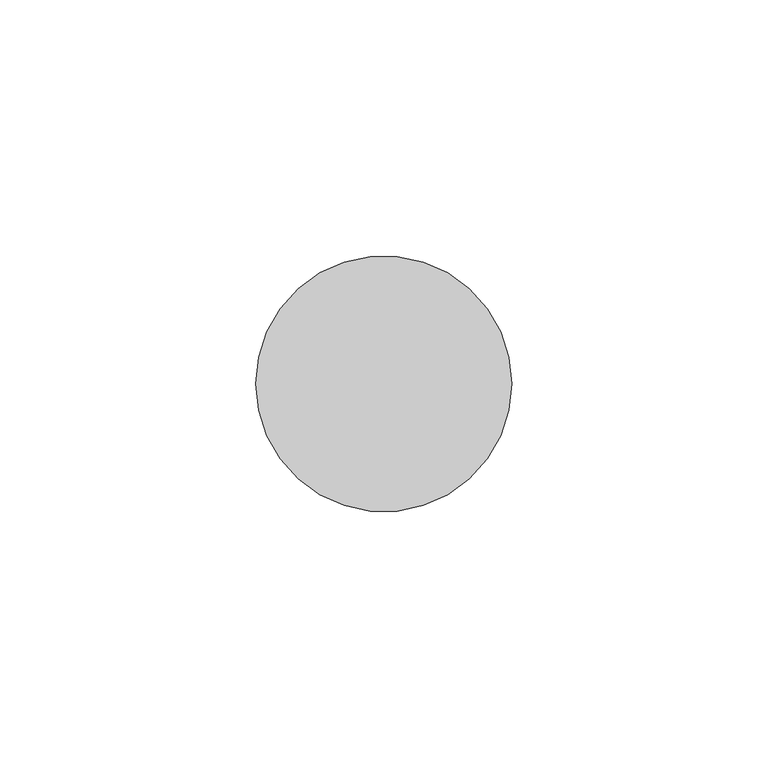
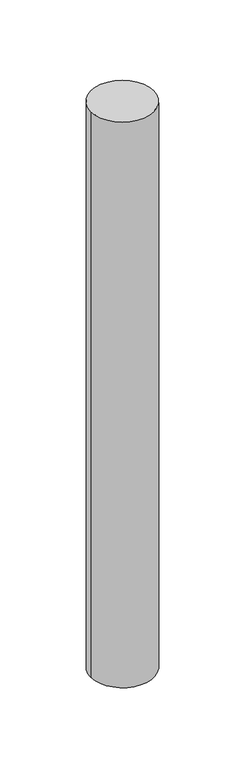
"""IFC4 building model written with IfcOpenShell, lengths in millimetres: member geometry, Импост круглого сечения : Радиус 25мм."""

import ifcopenshell
import ifcopenshell.guid

model = None  # the IFC model being written
_history = None  # IfcOwnerHistory: only IFC2X3 demands one
_inside = {}  # id of a spatial element -> (the spatial element, [elements in it])
_under = {}  # id of a project, library or spatial element -> (it, [spatial elements below it])
_declared = {}  # id of a project -> (the project, [libraries it declares])
_typed = {}  # id of a type object -> (the type object, [elements of that type])
_made_of = {}  # id of a material, layer set ... -> (it, [elements and type objects made of it])


def new_model(schema):
    """Start an empty IFC model of exactly this schema.

    Asked for "IFC4X3", IfcOpenShell would pick the latest addendum, in which some entities
    have other attributes; the version numbers below select the first issue.
    IFC2X3 requires an IfcOwnerHistory on every rooted entity: one is made here for all.
    """
    global model, _history
    if schema == "IFC4X3":
        model = ifcopenshell.file(schema_version=(4, 3, 0, 0))
    else:
        model = ifcopenshell.file(schema=schema)
    _inside.clear()
    _under.clear()
    _declared.clear()
    _typed.clear()
    _made_of.clear()
    _history = None
    if model.schema == "IFC2X3":
        org = make("IfcOrganization", Name="unknown")
        user = make(
            "IfcPersonAndOrganization",
            ThePerson=make("IfcPerson", FamilyName="unknown"),
            TheOrganization=org,
        )
        app = make(
            "IfcApplication",
            ApplicationDeveloper=org,
            Version="unknown",
            ApplicationFullName="unknown",
            ApplicationIdentifier="unknown",
        )
        _history = make(
            "IfcOwnerHistory",
            OwningUser=user,
            OwningApplication=app,
            ChangeAction="ADDED",
            CreationDate=0,
        )
    return model


def make(cls, **values):
    """One entity of the class cls with the attributes given. An attribute that is None is left unset."""
    return model.create_entity(
        cls, **{name: value for name, value in values.items() if value is not None}
    )


def rooted(cls, **values):
    """An entity with a GlobalId (a new one), such as an element, a storey or a relation."""
    return make(cls, GlobalId=ifcopenshell.guid.new(), OwnerHistory=_history, **values)


def si_unit(unit_type, name, prefix=None):
    """IfcSIUnit, for example si_unit("LENGTHUNIT", "METRE", prefix="MILLI")."""
    return make("IfcSIUnit", UnitType=unit_type, Prefix=prefix, Name=name)


def assignment(units):
    """IfcUnitAssignment: the units of a project."""
    return None if units is None else make("IfcUnitAssignment", Units=units)


def point(xyz):
    """IfcCartesianPoint."""
    return None if xyz is None else make("IfcCartesianPoint", Coordinates=xyz)


def direction(xyz):
    """IfcDirection."""
    return None if xyz is None else make("IfcDirection", DirectionRatios=xyz)


def frame(location, z_axis=None, x_axis=None):
    """IfcAxis2Placement3D, a coordinate frame: its origin and axes. An axis left out is left unset."""
    return make(
        "IfcAxis2Placement3D",
        Location=point(location),
        Axis=direction(z_axis),
        RefDirection=direction(x_axis),
    )


def frame_2d(location, x_axis=None):
    """IfcAxis2Placement2D, a coordinate frame in the plane: its origin and x axis."""
    return make(
        "IfcAxis2Placement2D", Location=point(location), RefDirection=direction(x_axis)
    )


def origin():
    """The frame at (0, 0, 0) with its axes left unset."""
    return frame((0.0, 0.0, 0.0))


def origin_2d():
    """The frame at (0, 0) in the plane with its x axis left unset."""
    return frame_2d((0.0, 0.0))


def place(relative_to, where):
    """IfcLocalPlacement: puts the frame where relative to a parent placement (None: the world)."""
    return make(
        "IfcLocalPlacement", PlacementRelTo=relative_to, RelativePlacement=where
    )


def context(
    kind, dimensions, precision=None, world=None, true_north=None, identifier=None
):
    """IfcGeometricRepresentationContext, for example the 3D "Model" context."""
    return make(
        "IfcGeometricRepresentationContext",
        ContextIdentifier=identifier,
        ContextType=kind,
        CoordinateSpaceDimension=dimensions,
        Precision=precision,
        WorldCoordinateSystem=world,
        TrueNorth=true_north,
    )


def project(units=None, contexts=None):
    """IfcProject with its units and contexts."""
    return rooted(
        "IfcProject",
        Name="project",
        RepresentationContexts=contexts,
        UnitsInContext=assignment(units),
    )


def spatial(cls, under=None, at=None, **own):
    """A site, building, storey or space (cls), placed at a placement, below another one or the project."""
    s = rooted(cls, ObjectPlacement=at, **own)
    if under is not None:
        _under.setdefault(under.id(), (under, []))[1].append(s)
    return s


def circle_curve(where, radius):
    """IfcCircle in the frame where."""
    return make("IfcCircle", Position=where, Radius=radius)


def trimmed(basis, trim1, trim2, sense, master):
    """IfcTrimmedCurve: the piece of a basis curve between two trims."""
    return make(
        "IfcTrimmedCurve",
        BasisCurve=basis,
        Trim1=trim1,
        Trim2=trim2,
        SenseAgreement=sense,
        MasterRepresentation=master,
    )


def segment(curve, same_sense, transition):
    """IfcCompositeCurveSegment."""
    return make(
        "IfcCompositeCurveSegment",
        Transition=transition,
        SameSense=same_sense,
        ParentCurve=curve,
    )


def composite_curve(segments, self_intersect=None):
    """IfcCompositeCurve: segments joined end to end."""
    return make("IfcCompositeCurve", Segments=segments, SelfIntersect=self_intersect)


def outline(outer, holes=None, kind="AREA"):
    """IfcArbitraryClosedProfileDef: a profile drawn as a closed curve; with holes, ...WithVoids."""
    if holes is None:
        return make("IfcArbitraryClosedProfileDef", ProfileType=kind, OuterCurve=outer)
    return make(
        "IfcArbitraryProfileDefWithVoids",
        ProfileType=kind,
        OuterCurve=outer,
        InnerCurves=holes,
    )


def extrude(swept, where, along, depth):
    """IfcExtrudedAreaSolid: the profile swept, set in the frame where, extruded along a direction by depth."""
    return make(
        "IfcExtrudedAreaSolid",
        SweptArea=swept,
        Position=where,
        ExtrudedDirection=direction(along),
        Depth=depth,
    )


def shape(context_of_items, identifier, shape_type, items):
    """IfcShapeRepresentation: the items that make up one representation, for example the "Body"."""
    return make(
        "IfcShapeRepresentation",
        ContextOfItems=context_of_items,
        RepresentationIdentifier=identifier,
        RepresentationType=shape_type,
        Items=items,
    )


def source(mapping_origin, context_of_items, identifier, shape_type, items):
    """IfcRepresentationMap: a shape defined once, which mapped items show again and again."""
    return make(
        "IfcRepresentationMap",
        MappingOrigin=mapping_origin,
        MappedRepresentation=shape(context_of_items, identifier, shape_type, items),
    )


def transform(
    local_origin,
    x_axis=None,
    y_axis=None,
    z_axis=None,
    scale=None,
    scale2=None,
    scale3=None,
    uniform=True,
):
    """IfcCartesianTransformationOperator3D, or its non-uniform kind. x_axis, y_axis, z_axis: its Axis1, 2, 3."""
    if uniform:
        return make(
            "IfcCartesianTransformationOperator3D",
            Axis1=direction(x_axis),
            Axis2=direction(y_axis),
            LocalOrigin=point(local_origin),
            Scale=scale,
            Axis3=direction(z_axis),
        )
    return make(
        "IfcCartesianTransformationOperator3DnonUniform",
        Axis1=direction(x_axis),
        Axis2=direction(y_axis),
        LocalOrigin=point(local_origin),
        Scale=scale,
        Axis3=direction(z_axis),
        Scale2=scale2,
        Scale3=scale3,
    )


def mapped(mapping_source, mapping_target):
    """IfcMappedItem: shows the shape of a source again, moved by a transform."""
    return make(
        "IfcMappedItem", MappingSource=mapping_source, MappingTarget=mapping_target
    )


def made_of(thing, what):
    """Note that an element or type object is made of a material, layer set ...; save() writes the relation."""
    if what is not None:
        _made_of.setdefault(what.id(), (what, []))[1].append(thing)
    return thing


def element(
    cls,
    number,
    at=None,
    inside=None,
    cuts=None,
    type_object=None,
    material=None,
    context=None,
    identifier="Body",
    shape_type=None,
    held_by="IfcProductDefinitionShape",
    body=None,
    shapes=None,
    **own,
):
    """One element of the class cls, such as IfcWall. Its Tag is "e" and its number.

    at: its placement. inside: the storey or other place that contains it. cuts: it is an
    opening in that element (IfcRelVoidsElement). A single representation is given by context,
    identifier, shape_type and body (its items); several are given by shapes. held_by: the class
    of the entity that holds the representations. save() writes the other relations.
    """
    e = rooted(cls, Tag="e%d" % number, ObjectPlacement=at, **own)
    if body is not None:
        shapes = [shape(context, identifier, shape_type, body)]
    if shapes is not None:
        e.Representation = make(held_by, Representations=shapes)
    if inside is not None:
        _inside.setdefault(inside.id(), (inside, []))[1].append(e)
    if cuts is not None:
        rooted(
            "IfcRelVoidsElement", RelatingBuildingElement=cuts, RelatedOpeningElement=e
        )
    if type_object is not None:
        _typed.setdefault(type_object.id(), (type_object, []))[1].append(e)
    return made_of(e, material)


def aggregate(whole, parts):
    """IfcRelAggregates: a whole, such as a stair, and the parts it consists of."""
    return rooted("IfcRelAggregates", RelatingObject=whole, RelatedObjects=parts)


def save(model, path):
    """Write the relations noted so far, then the file.

    IfcRelAggregates (storeys below a building ...), IfcRelContainedInSpatialStructure (elements
    in a storey), IfcRelDefinesByType, IfcRelAssociatesMaterial and IfcRelDeclares: one each for
    every whole, place, type object, material and project.
    """
    for whole, parts in _under.values():
        aggregate(whole, parts)
    for where, things in _inside.values():
        rooted(
            "IfcRelContainedInSpatialStructure",
            RelatedElements=things,
            RelatingStructure=where,
        )
    for kind, things in _typed.values():
        rooted("IfcRelDefinesByType", RelatedObjects=things, RelatingType=kind)
    for what, things in _made_of.values():
        rooted("IfcRelAssociatesMaterial", RelatedObjects=things, RelatingMaterial=what)
    for by, libraries in _declared.values():
        rooted("IfcRelDeclares", RelatingContext=by, RelatedDefinitions=libraries)
    model.write(path)


def member_0b83a453(model_context):
    return source(origin(), model_context, "Body", "SweptSolid", [
        extrude(outline(composite_curve([segment(trimmed(circle_curve(origin_2d(), 25.0), [point((25.0, 0.0))], [point((-25.0, 0.0))], False, "CARTESIAN"), True, "CONTINUOUS"), segment(trimmed(circle_curve(origin_2d(), 25.0), [point((-25.0, 0.0))], [point((25.0, 0.0))], False, "CARTESIAN"), True, "CONTINUOUS")], self_intersect=False)), frame((0.0, 0.0, -475.0), z_axis=(0.0, 0.0, 1.0), x_axis=(1.0, 0.0, 0.0)), (0.0, 0.0, 1.0), 475.0),
    ])


if __name__ == "__main__":
    model = new_model("IFC4")
    model_context = context("Model", 3, world=origin())
    ifc_project = project(units=[si_unit("LENGTHUNIT", "METRE", prefix="MILLI")], contexts=[model_context])
    site = spatial("IfcSite", under=ifc_project)
    building = spatial("IfcBuilding", under=site)
    placement = place(None, origin())
    member_shape = member_0b83a453(model_context)
    element("IfcMember", 1, ObjectType="Импост круглого сечения : Радиус 25мм", at=placement, inside=building, context=model_context, shape_type="MappedRepresentation", body=[
        mapped(member_shape, transform((0.0, 0.0, 0.0), x_axis=(1.0, 0.0, 0.0), y_axis=(0.0, 1.0, 0.0), z_axis=(0.0, 0.0, 1.0))),
    ])
    save(model, "model.ifc")
